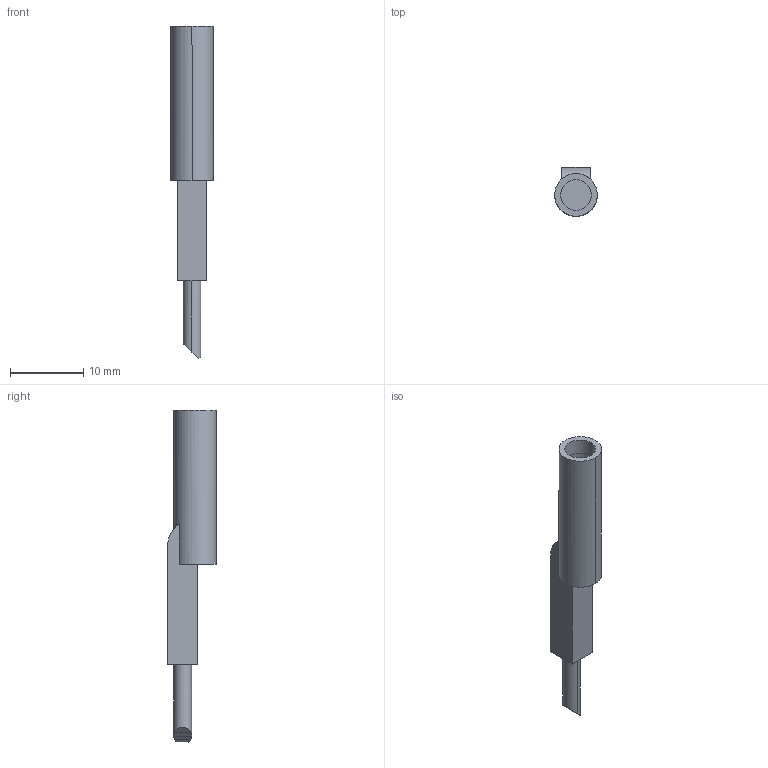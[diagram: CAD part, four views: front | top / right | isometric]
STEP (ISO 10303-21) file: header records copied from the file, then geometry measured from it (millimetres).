
FILE_DESCRIPTION(('STEP AP214'),'1');
FILE_NAME('3035975.stp','2021-03-29T17:06:00',('TraceParts'),('TraceParts S.A.'),'Spatial InterOp 3D',' ',' ');
FILE_SCHEMA(('AUTOMOTIVE_DESIGN { 1 0 10303 214 1 1 1 1 }'));
Length unit declared in the file: millimetre
Products named in the file (1): 3035975
Bounding box: 5.8 x 6.67 x 45.2 mm (x, y, z)
Volume: 638 mm3; surface area: 940.1 mm2
Topology: 1 solids, 1 shells, 22 faces, 57 edges, 39 vertices
Faces by surface type: plane 9, cylinder 9, extrusion 4
Entity records: 1373 total; most frequent: CARTESIAN_POINT 647, ORIENTED_EDGE 114, DIRECTION 97, EDGE_CURVE 57, VERTEX_POINT 39, AXIS2_PLACEMENT_3D 35, VECTOR 27, EDGE_LOOP 24
